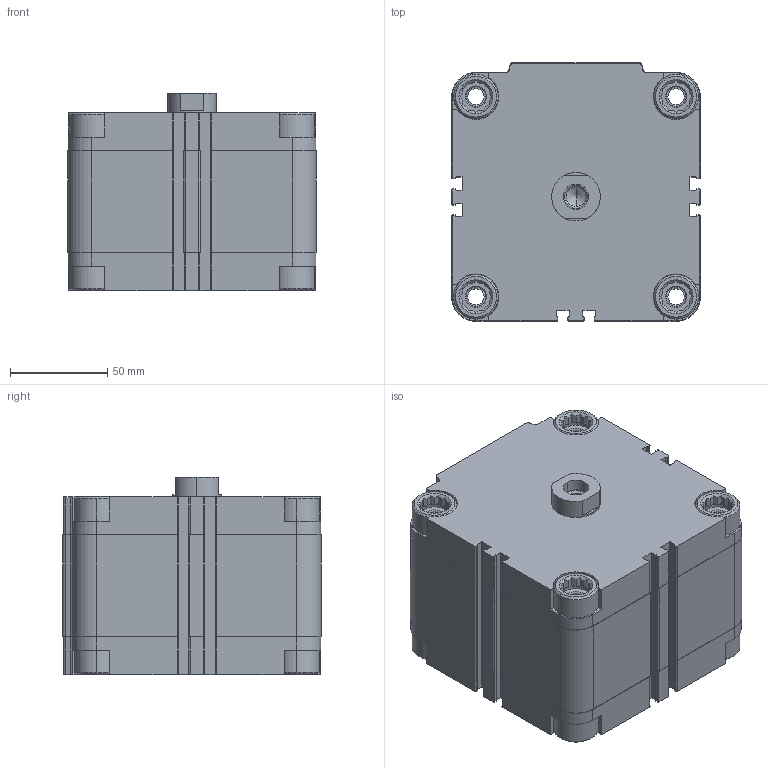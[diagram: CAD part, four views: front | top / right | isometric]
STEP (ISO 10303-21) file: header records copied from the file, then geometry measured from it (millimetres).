
FILE_DESCRIPTION (( 'STEP AP203' ), '1' );
FILE_NAME ('CDVU100-25F.STEP', '2020-03-30T15:05:18', ( '' ), ( '' ), 'SwSTEP 2.0', 'SolidWorks 2019', '' );
FILE_SCHEMA (( 'CONFIG_CONTROL_DESIGN' ));
Length unit declared in the file: millimetre
Products named in the file (1): CDVU100-25F
Bounding box: 128 x 133 x 101.5 mm (x, y, z)
Volume: 1259181.3 mm3; surface area: 161592.8 mm2
Topology: 2 solids, 2 shells, 657 faces, 1778 edges, 1167 vertices
Faces by surface type: plane 389, cylinder 206, cone 62
Entity records: 20873 total; most frequent: CARTESIAN_POINT 4173, ORIENTED_EDGE 3544, DIRECTION 3384, EDGE_CURVE 1772, VERTEX_POINT 1167, AXIS2_PLACEMENT_3D 1146, VECTOR 1092, LINE 1092
